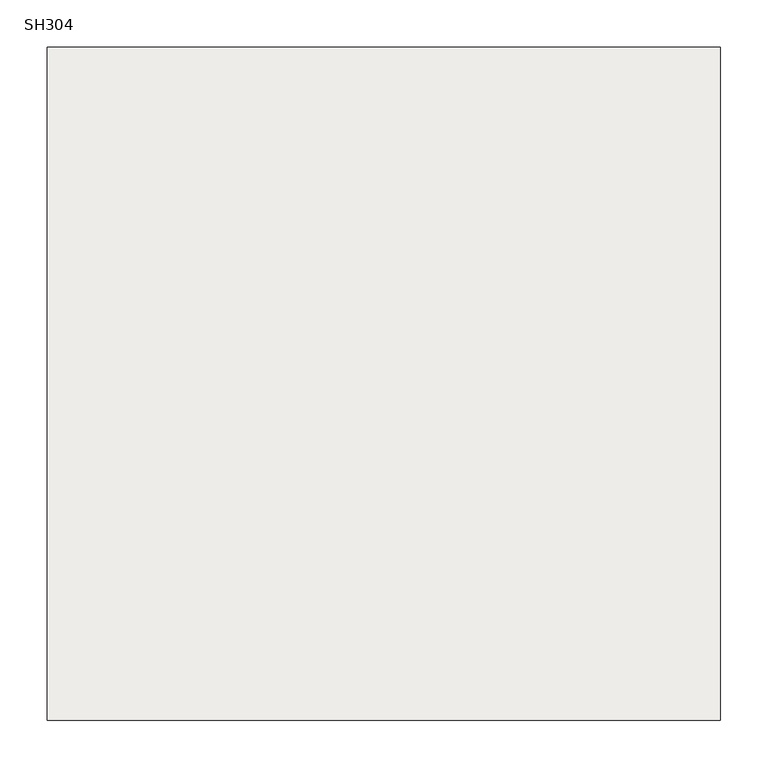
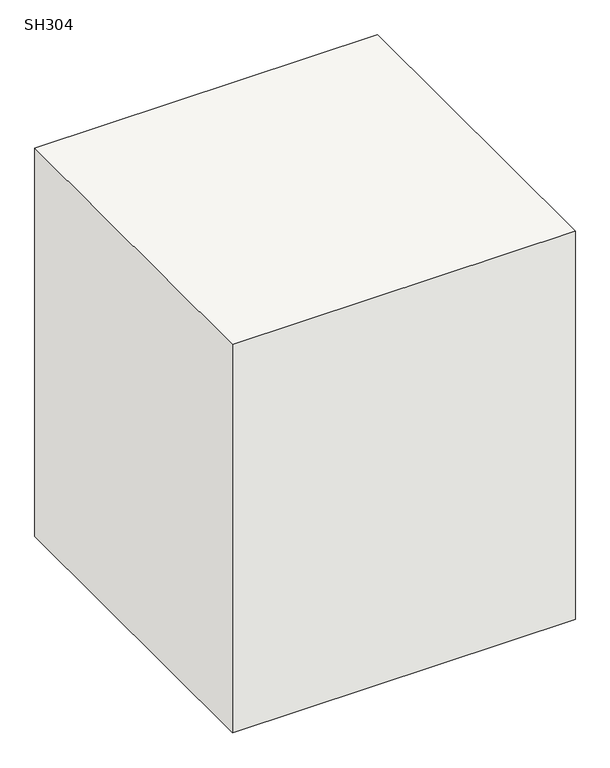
"""IFC4 building model written with IfcOpenShell, lengths in millimetres: slab geometry, 柱形_SH : SH304."""

from ifc_helpers import new_model, si_unit, frame, origin, place, context, project, spatial, polyline, outline, extrude, source, transform, mapped, element, save


def sh304_efbd32dc(model_context):
    return source(origin(), model_context, "Body", "SweptSolid", [
        extrude(outline(polyline([(355.0, 355.0), (355.0, -355.0), (-355.0, -355.0), (-355.0, 355.0), (355.0, 355.0)])), frame((0.0, 0.0, -850.0), z_axis=(0.0, 0.0, 1.0), x_axis=(1.0, 0.0, 0.0)), (0.0, 0.0, 1.0), 850.0),
    ])


if __name__ == "__main__":
    model = new_model("IFC4")
    model_context = context("Model", 3, world=origin())
    ifc_project = project(units=[si_unit("LENGTHUNIT", "METRE", prefix="MILLI")], contexts=[model_context])
    site = spatial("IfcSite", under=ifc_project)
    building = spatial("IfcBuilding", under=site)
    placement = place(None, origin())
    sh304_shape = sh304_efbd32dc(model_context)
    element("IfcSlab", 1, ObjectType="柱形_SH : SH304", at=placement, inside=building, context=model_context, shape_type="MappedRepresentation", body=[
        mapped(sh304_shape, transform((0.0, 0.0, 0.0), x_axis=(1.0, 0.0, 0.0), y_axis=(0.0, 1.0, 0.0), z_axis=(0.0, 0.0, 1.0))),
    ])
    save(model, "model.ifc")
